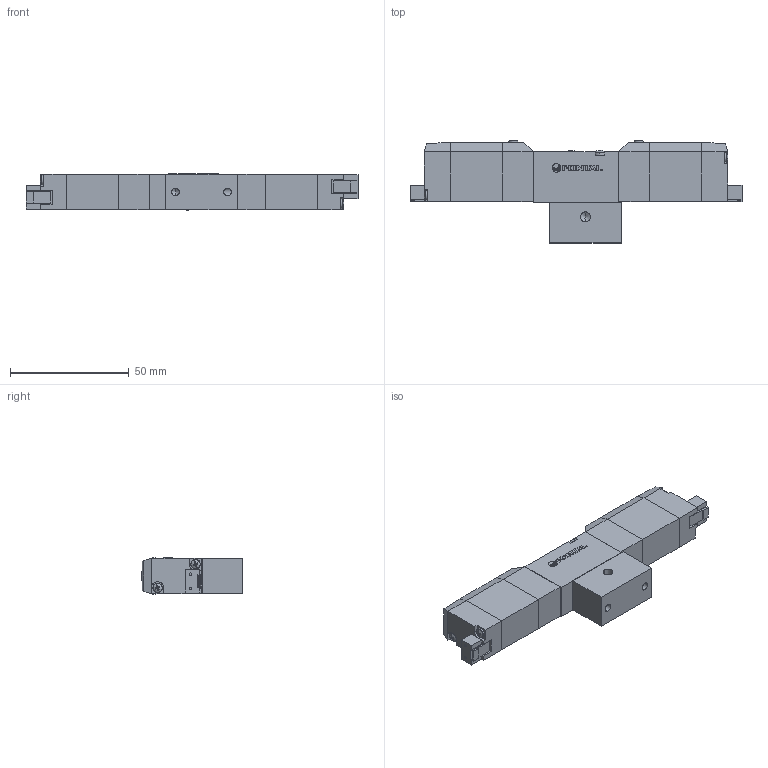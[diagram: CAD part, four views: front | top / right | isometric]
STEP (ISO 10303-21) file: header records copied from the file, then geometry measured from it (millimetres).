
FILE_DESCRIPTION (( 'STEP AP203' ), '1' );
FILE_NAME ('PCD345#-M5-#-SP-#.STEP', '2016-02-04T03:46:02', ( 'Sam Lin' ), ( '' ), 'SwSTEP 2.0', 'SolidWorks 2013', '' );
FILE_SCHEMA (( 'CONFIG_CONTROL_DESIGN' ));
Length unit declared in the file: metre
Products named in the file (11): 零件2^PCD345#-M5-#-SP-#; PCD345#-M5-#-SP-#; PC5-7; ISO 7045 - M2 x 10; PC5-8; PC5-1; PC5-9-345; PC5-5; PC-MARK; PC5-6; ISO 7045 - M2.5 x 25
Assembly tree (19 placements, depth 2):
  PCD345#-M5-#-SP-#
    PC5-1
    PC5-5  x2
    PC-MARK
    PC5-6  x2
    ISO 7045 - M2.5 x 25  x2
    零件2^PCD345#-M5-#-SP-#  x2
    PC5-7  x2
    ISO 7045 - M2 x 10  x4
    PC5-8  x2
    PC5-9-345
Bounding box: 140 x 43 x 15.4 mm (x, y, z)
Volume: 51849.2 mm3; surface area: 21729.3 mm2
Topology: 27 solids, 27 shells, 617 faces, 1523 edges, 953 vertices
Faces by surface type: plane 391, cylinder 103, cone 79, bspline 44
Entity records: 11859 total; most frequent: CARTESIAN_POINT 2405, ORIENTED_EDGE 1672, DIRECTION 1632, EDGE_CURVE 836, LINE 554, VECTOR 554, VERTEX_POINT 540, AXIS2_PLACEMENT_3D 539
